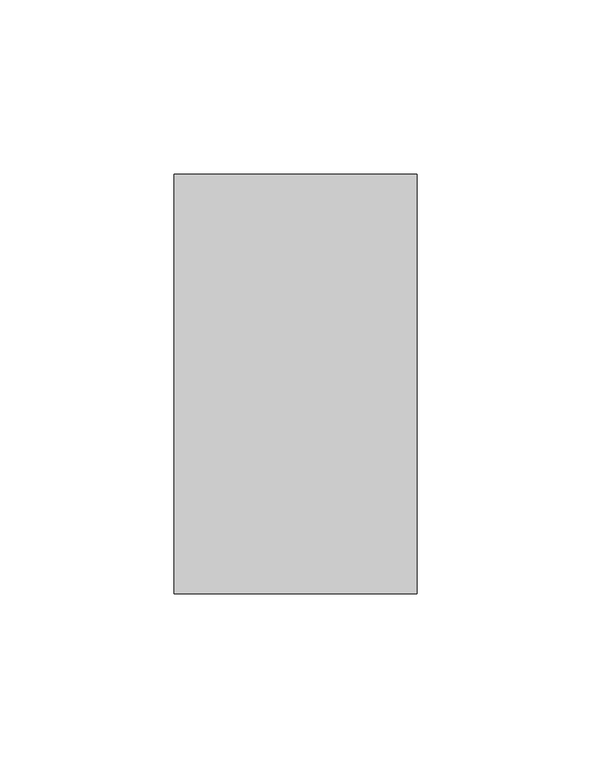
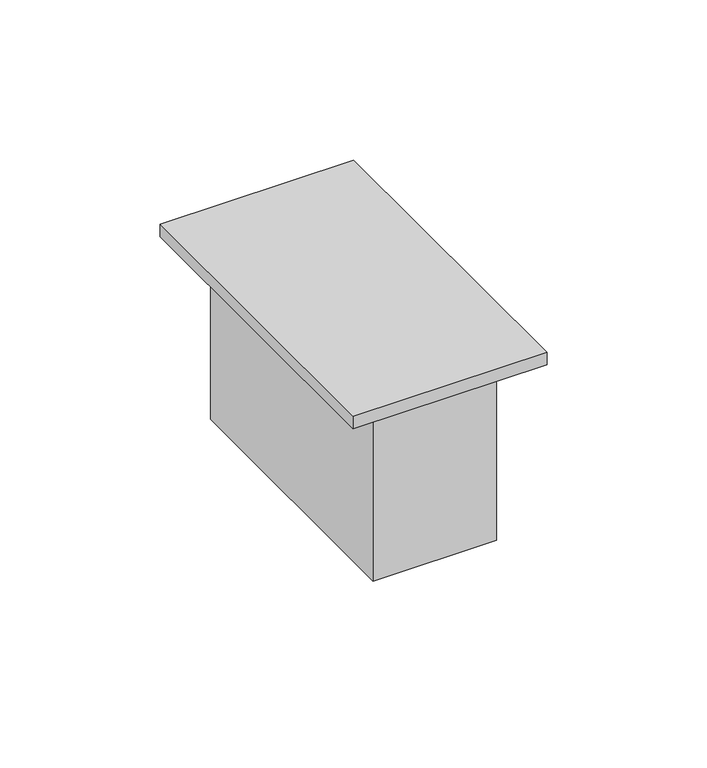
"""IFC4 building model written with IfcOpenShell, lengths in millimetres: proxy geometry, OMAHA - Receptacle - 120V 1P with OS Control : Duplex - EXPLOSION PROOF - CLASS I, DIVISION II HAZARDOUS."""

from ifc_helpers import new_model, si_unit, frame, origin, origin_with_axes, place, context, project, spatial, polyline, outline, extrude, source, transform, mapped, element, save


def electrical_fixtures_f92adea4(model_context):
    return source(origin(), model_context, "Body", "SweptSolid", [
        extrude(outline(polyline([(34.925, 0.0), (34.925, -120.65), (-34.925, -120.65), (-34.925, 0.0), (34.925, 0.0)])), frame((0.0, 0.0, 68.2625), z_axis=(0.0, 0.0, 1.0), x_axis=(1.0, 0.0, 0.0)), (0.0, 0.0, 1.0), 4.7625),
        extrude(outline(polyline([(34.925, 0.0), (34.925, -120.65), (-34.925, -120.65), (-34.925, 0.0), (34.925, 0.0)])), frame((0.0, 0.0, 68.2625), z_axis=(0.0, 0.0, 1.0), x_axis=(1.0, 0.0, 0.0)), (0.0, 0.0, 1.0), 4.7625),
        extrude(outline(polyline([(22.225, -9.525), (22.225, -111.125), (-22.225, -111.125), (-22.225, -9.525), (22.225, -9.525)])), origin_with_axes(), (0.0, 0.0, 1.0), 68.2625),
        extrude(outline(polyline([(22.225, -9.525), (22.225, -111.125), (-22.225, -111.125), (-22.225, -9.525), (22.225, -9.525)])), origin_with_axes(), (0.0, 0.0, 1.0), 68.2625),
    ])


if __name__ == "__main__":
    model = new_model("IFC4")
    model_context = context("Model", 3, world=origin())
    ifc_project = project(units=[si_unit("LENGTHUNIT", "METRE", prefix="MILLI")], contexts=[model_context])
    site = spatial("IfcSite", under=ifc_project)
    building = spatial("IfcBuilding", under=site)
    placement = place(None, origin())
    electrical_fixtures_shape = electrical_fixtures_f92adea4(model_context)
    element("IfcBuildingElementProxy", 1, Name="OMAHA - Receptacle - 120V 1P with OS Control : Duplex - EXPLOSION PROOF - CLASS I, DIVISION II HAZARDOUS", ObjectType="OMAHA - Receptacle - 120V 1P with OS Control : Duplex - EXPLOSION PROOF - CLASS I, DIVISION II HAZARDOUS", at=placement, inside=building, context=model_context, shape_type="MappedRepresentation", body=[
        mapped(electrical_fixtures_shape, transform((0.0, 0.0, 0.0), x_axis=(1.0, 0.0, 0.0), y_axis=(0.0, 1.0, 0.0), z_axis=(0.0, 0.0, 1.0))),
    ])
    save(model, "model.ifc")
